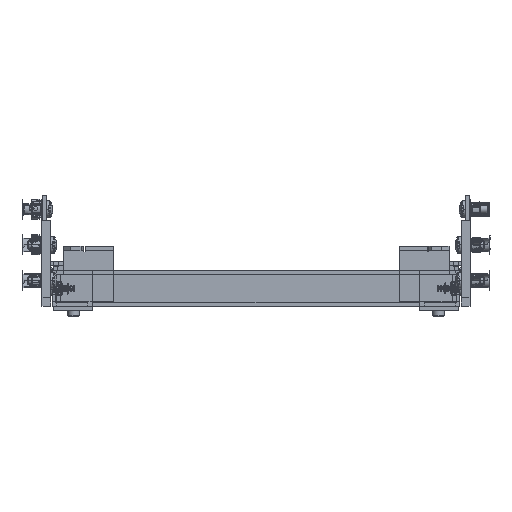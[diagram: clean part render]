
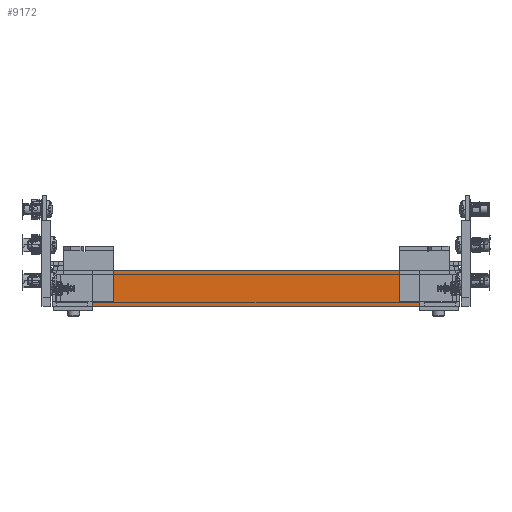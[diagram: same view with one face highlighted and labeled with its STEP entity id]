
A CAD part, front view. The second image highlights one B-rep face of the part: STEP entity #9172.
In plain terms, the highlighted planar face has unit normal (0, -1, 0) as drawn and (-1, 0, 0) by its records, which use the part's own axes.
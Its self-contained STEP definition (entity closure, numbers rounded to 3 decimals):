
#6291 = ORIENTED_EDGE ( 'NONE', *, *, #10166, .T. ) ;
#6425 = VERTEX_POINT ( 'NONE', #34309 ) ;
#8096 = ORIENTED_EDGE ( 'NONE', *, *, #58903, .T. ) ;
#9172 = ADVANCED_FACE ( 'NONE', ( #114836 ), #111573, .F. ) ;
#10166 = EDGE_CURVE ( 'NONE', #100696, #139826, #140092, .T. ) ;
#10970 = DIRECTION ( 'NONE',  ( 0., 0., 1. ) ) ;
#11239 = LINE ( 'NONE', #137999, #63122 ) ;
#19472 = VERTEX_POINT ( 'NONE', #28104 ) ;
#21627 = EDGE_CURVE ( 'NONE', #6425, #100696, #149523, .T. ) ;
#23378 = LINE ( 'NONE', #24199, #122255 ) ;
#23530 = ORIENTED_EDGE ( 'NONE', *, *, #140823, .T. ) ;
#23551 = VERTEX_POINT ( 'NONE', #139042 ) ;
#24199 = CARTESIAN_POINT ( 'NONE',  ( -941.51, 114.5, 25. ) ) ;
#24220 = CARTESIAN_POINT ( 'NONE',  ( -941.51, -114.5, 0. ) ) ;
#28104 = CARTESIAN_POINT ( 'NONE',  ( -941.51, 114.5, 25. ) ) ;
#28976 = ORIENTED_EDGE ( 'NONE', *, *, #64656, .T. ) ;
#28980 = CARTESIAN_POINT ( 'NONE',  ( -941.51, -114.5, 2.5 ) ) ;
#29290 = ORIENTED_EDGE ( 'NONE', *, *, #21627, .T. ) ;
#34309 = CARTESIAN_POINT ( 'NONE',  ( -941.51, 114.5, 21.9 ) ) ;
#36007 = DIRECTION ( 'NONE',  ( 0., 0., -1. ) ) ;
#39015 = DIRECTION ( 'NONE',  ( 0., 0., -1. ) ) ;
#42487 = CARTESIAN_POINT ( 'NONE',  ( -941.51, 114.5, 3.1 ) ) ;
#49086 = CARTESIAN_POINT ( 'NONE',  ( -941.51, -114.5, 21.9 ) ) ;
#50604 = VERTEX_POINT ( 'NONE', #24220 ) ;
#53722 = DIRECTION ( 'NONE',  ( 0., -1., 0. ) ) ;
#56868 = EDGE_LOOP ( 'NONE', ( #23530, #28976, #124699, #117534, #29290, #6291, #8096, #72317 ) ) ;
#58903 = EDGE_CURVE ( 'NONE', #139826, #50604, #104294, .T. ) ;
#60056 = EDGE_CURVE ( 'NONE', #19472, #23551, #23378, .T. ) ;
#60554 = CARTESIAN_POINT ( 'NONE',  ( -941.51, -114.5, 21.9 ) ) ;
#60650 = DIRECTION ( 'NONE',  ( 0., -1., 0. ) ) ;
#61776 = DIRECTION ( 'NONE',  ( 0., 0., 1. ) ) ;
#61880 = AXIS2_PLACEMENT_3D ( 'NONE', #162087, #99143, #149666 ) ;
#63122 = VECTOR ( 'NONE', #61776, 1000. ) ;
#64656 = EDGE_CURVE ( 'NONE', #131879, #23551, #114526, .T. ) ;
#70452 = LINE ( 'NONE', #110247, #108981 ) ;
#70584 = VECTOR ( 'NONE', #10970, 1000. ) ;
#72317 = ORIENTED_EDGE ( 'NONE', *, *, #75785, .F. ) ;
#74390 = VERTEX_POINT ( 'NONE', #81851 ) ;
#75785 = EDGE_CURVE ( 'NONE', #74390, #50604, #70452, .T. ) ;
#79560 = CARTESIAN_POINT ( 'NONE',  ( -941.51, 114.5, 3.1 ) ) ;
#81851 = CARTESIAN_POINT ( 'NONE',  ( -941.51, -114.5, 3.1 ) ) ;
#87626 = VECTOR ( 'NONE', #53722, 1000. ) ;
#89969 = VECTOR ( 'NONE', #128445, 1000. ) ;
#91972 = LINE ( 'NONE', #28980, #89969 ) ;
#99143 = DIRECTION ( 'NONE',  ( 1., 0., 0. ) ) ;
#100696 = VERTEX_POINT ( 'NONE', #42487 ) ;
#104294 = LINE ( 'NONE', #116723, #87626 ) ;
#108981 = VECTOR ( 'NONE', #148312, 1000. ) ;
#110247 = CARTESIAN_POINT ( 'NONE',  ( -941.51, -114.5, 2.5 ) ) ;
#111573 = PLANE ( 'NONE',  #61880 ) ;
#113889 = CARTESIAN_POINT ( 'NONE',  ( -941.51, 114.5, 2.5 ) ) ;
#114526 = LINE ( 'NONE', #49086, #70584 ) ;
#114836 = FACE_OUTER_BOUND ( 'NONE', #56868, .T. ) ;
#116723 = CARTESIAN_POINT ( 'NONE',  ( -941.51, -140.5, 0. ) ) ;
#117534 = ORIENTED_EDGE ( 'NONE', *, *, #143040, .F. ) ;
#122255 = VECTOR ( 'NONE', #60650, 1000. ) ;
#124699 = ORIENTED_EDGE ( 'NONE', *, *, #60056, .F. ) ;
#128445 = DIRECTION ( 'NONE',  ( 0., 0., 1. ) ) ;
#131879 = VERTEX_POINT ( 'NONE', #60554 ) ;
#132475 = CARTESIAN_POINT ( 'NONE',  ( -941.51, 114.5, 0. ) ) ;
#136249 = VECTOR ( 'NONE', #39015, 1000. ) ;
#137999 = CARTESIAN_POINT ( 'NONE',  ( -941.51, 114.5, 2.5 ) ) ;
#139042 = CARTESIAN_POINT ( 'NONE',  ( -941.51, -114.5, 25. ) ) ;
#139826 = VERTEX_POINT ( 'NONE', #132475 ) ;
#140092 = LINE ( 'NONE', #79560, #136249 ) ;
#140823 = EDGE_CURVE ( 'NONE', #74390, #131879, #91972, .T. ) ;
#143040 = EDGE_CURVE ( 'NONE', #6425, #19472, #11239, .T. ) ;
#148312 = DIRECTION ( 'NONE',  ( 0., 0., -1. ) ) ;
#149523 = LINE ( 'NONE', #113889, #157654 ) ;
#149666 = DIRECTION ( 'NONE',  ( 0., 0., -1. ) ) ;
#157654 = VECTOR ( 'NONE', #36007, 1000. ) ;
#162087 = CARTESIAN_POINT ( 'NONE',  ( -941.51, 114.5, 2.5 ) ) ;
